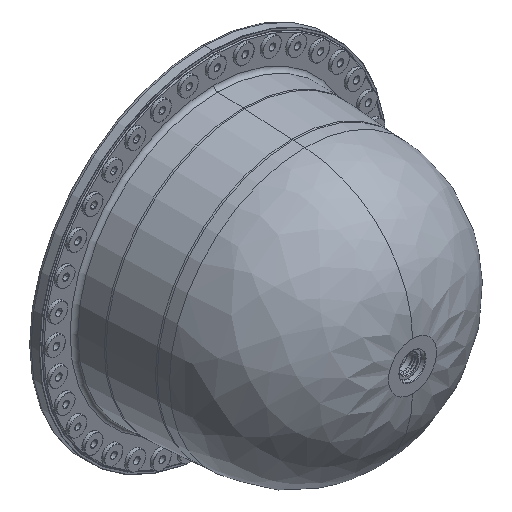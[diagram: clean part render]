
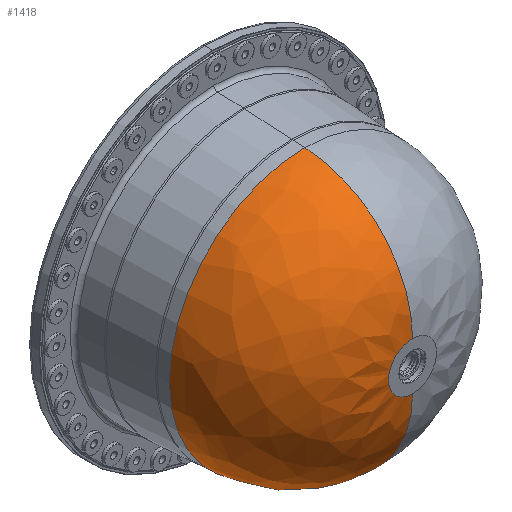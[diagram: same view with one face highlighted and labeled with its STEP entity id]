
A CAD part, isometric view. The second image highlights one B-rep face of the part: STEP entity #1418.
In plain terms, the highlighted face is a revolution surface.
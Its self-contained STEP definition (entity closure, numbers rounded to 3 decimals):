
#1330=CARTESIAN_POINT('Vertex',(0.,-446.6,-51.178)) ;
#1332=CARTESIAN_POINT('Vertex',(0.,-446.6,51.178)) ;
#1335=CARTESIAN_POINT('Axis2P3D Location',(0.,-446.6,0.)) ;
#1350=CARTESIAN_POINT('Control Point',(0.,25.047,0.)) ;
#1351=CARTESIAN_POINT('Control Point',(0.,29.619,20.822)) ;
#1352=CARTESIAN_POINT('Control Point',(0.,31.867,42.155)) ;
#1353=CARTESIAN_POINT('Control Point',(0.,31.712,63.653)) ;
#1354=CARTESIAN_POINT('Control Point',(0.,26.604,106.25)) ;
#1355=CARTESIAN_POINT('Control Point',(0.,12.224,146.67)) ;
#1356=CARTESIAN_POINT('Control Point',(0.,2.797,165.991)) ;
#1357=CARTESIAN_POINT('Control Point',(0.,-20.213,202.201)) ;
#1358=CARTESIAN_POINT('Control Point',(0.,-50.645,232.442)) ;
#1359=CARTESIAN_POINT('Control Point',(0.,-67.494,245.794)) ;
#1360=CARTESIAN_POINT('Control Point',(0.,-103.889,268.509)) ;
#1361=CARTESIAN_POINT('Control Point',(0.,-144.399,282.635)) ;
#1362=CARTESIAN_POINT('Control Point',(0.,-165.363,287.397)) ;
#1363=CARTESIAN_POINT('Control Point',(0.,-208.,292.159)) ;
#1364=CARTESIAN_POINT('Control Point',(0.,-250.637,287.397)) ;
#1365=CARTESIAN_POINT('Control Point',(0.,-271.601,282.635)) ;
#1366=CARTESIAN_POINT('Control Point',(0.,-312.111,268.509)) ;
#1367=CARTESIAN_POINT('Control Point',(0.,-348.506,245.794)) ;
#1368=CARTESIAN_POINT('Control Point',(0.,-365.355,232.442)) ;
#1369=CARTESIAN_POINT('Control Point',(0.,-395.787,202.201)) ;
#1370=CARTESIAN_POINT('Control Point',(0.,-418.797,165.991)) ;
#1371=CARTESIAN_POINT('Control Point',(0.,-428.224,146.67)) ;
#1372=CARTESIAN_POINT('Control Point',(0.,-442.604,106.25)) ;
#1373=CARTESIAN_POINT('Control Point',(0.,-447.712,63.653)) ;
#1374=CARTESIAN_POINT('Control Point',(0.,-447.867,42.155)) ;
#1375=CARTESIAN_POINT('Control Point',(0.,-445.619,20.822)) ;
#1376=CARTESIAN_POINT('Control Point',(0.,-441.047,0.)) ;
#1377=CARTESIAN_POINT('Axis1P Location',(0.,-208.,0.)) ;
#1381=CARTESIAN_POINT('Axis2P3D Location',(0.,-208.,51.178)) ;
#1385=CARTESIAN_POINT('Vertex',(0.,-216.327,289.633)) ;
#1388=CARTESIAN_POINT('Axis2P3D Location',(0.,-208.,-51.178)) ;
#1392=CARTESIAN_POINT('Vertex',(0.,-216.327,-289.633)) ;
#1407=CARTESIAN_POINT('Axis2P3D Location',(0.,-216.327,0.)) ;
#1336=DIRECTION('Axis2P3D Direction',(0.,-1.,0.)) ;
#1378=DIRECTION('Axis1P Direction',(-0.,1.,-0.)) ;
#1382=DIRECTION('Axis2P3D Direction',(1.,0.,0.)) ;
#1389=DIRECTION('Axis2P3D Direction',(-1.,0.,0.)) ;
#1408=DIRECTION('Axis2P3D Direction',(0.,-1.,0.)) ;
#1337=AXIS2_PLACEMENT_3D('Circle Axis2P3D',#1335,#1336,$) ;
#1383=AXIS2_PLACEMENT_3D('Circle Axis2P3D',#1381,#1382,$) ;
#1390=AXIS2_PLACEMENT_3D('Circle Axis2P3D',#1388,#1389,$) ;
#1409=AXIS2_PLACEMENT_3D('Circle Axis2P3D',#1407,#1408,$) ;
#1413=ORIENTED_EDGE('',*,*,#1394,.T.) ;
#1414=ORIENTED_EDGE('',*,*,#1339,.F.) ;
#1415=ORIENTED_EDGE('',*,*,#1387,.F.) ;
#1416=ORIENTED_EDGE('',*,*,#1411,.T.) ;
#1418=ADVANCED_FACE('Corps de pi\X2\00E8\X0\ce.2',(#1417),#1380,.F.) ;
#1379=AXIS1_PLACEMENT('Revolution Surface Axis1P',#1377,#1378) ;
#1349=B_SPLINE_CURVE_WITH_KNOTS('',5,(#1350,#1351,#1352,#1353,#1354,#1355,#1356,#1357,#1358,#1359,#1360,#1361,#1362,#1363,#1364,#1365,#1366,#1367,#1368,#1369,#1370,#1371,#1372,#1373,#1374,#1375,#1376),.UNSPECIFIED.,.F.,.U.,(6,3,3,3,3,3,3,3,6),(-426.371,-319.778,-213.185,-106.593,0.,106.593,213.185,319.778,426.371),.UNSPECIFIED.) ;
#1338=CIRCLE('generated circle',#1337,51.178) ;
#1384=CIRCLE('generated circle',#1383,238.6) ;
#1391=CIRCLE('generated circle',#1390,238.6) ;
#1410=CIRCLE('generated circle',#1409,289.633) ;
#1339=EDGE_CURVE('',#1333,#1331,#1338,.T.) ;
#1387=EDGE_CURVE('',#1386,#1333,#1384,.T.) ;
#1394=EDGE_CURVE('',#1393,#1331,#1391,.T.) ;
#1411=EDGE_CURVE('',#1386,#1393,#1410,.T.) ;
#1412=EDGE_LOOP('',(#1413,#1414,#1415,#1416)) ;
#1417=FACE_OUTER_BOUND('',#1412,.T.) ;
#1380=SURFACE_OF_REVOLUTION('homeo Torus',#1349,#1379) ;
#1331=VERTEX_POINT('',#1330) ;
#1333=VERTEX_POINT('',#1332) ;
#1386=VERTEX_POINT('',#1385) ;
#1393=VERTEX_POINT('',#1392) ;
